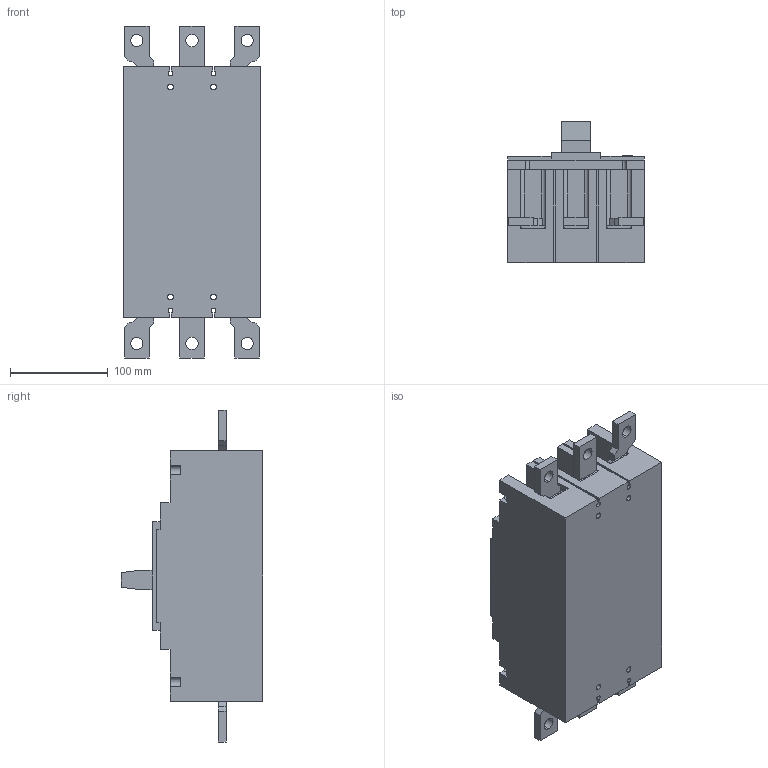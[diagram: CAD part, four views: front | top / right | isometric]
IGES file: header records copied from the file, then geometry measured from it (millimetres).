
Start section:  PTC IGES file: 24-metasol-mccb-400af-3p-3bus.igs
Global section: file name: 24-metasol-mccb-400af-3p-3bus.igs; native system: Pro/ENGINEER by Parametric Technology Corporation; preprocessor: 2010280; author: mgkimb; organization: Unknown; date: 20131029.143453; units: millimetre
Bounding box: 140 x 145 x 340 mm (x, y, z)
Surface area: 226958 mm2 (no closed solid volume)
Topology: 0 solids, 0 shells, 321 faces, 1720 edges, 1720 vertices
Faces by surface type: bspline 223, revolution 98
